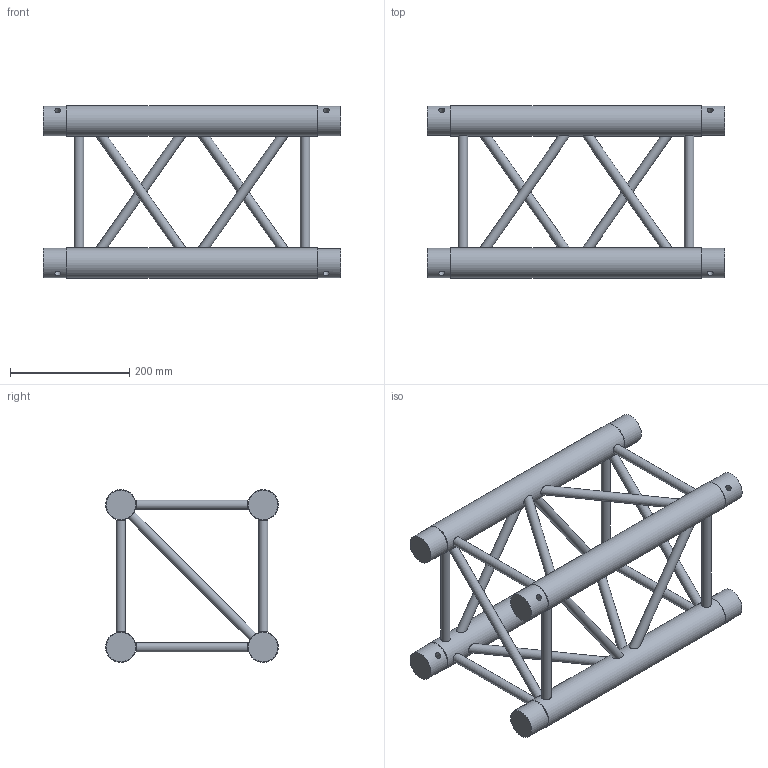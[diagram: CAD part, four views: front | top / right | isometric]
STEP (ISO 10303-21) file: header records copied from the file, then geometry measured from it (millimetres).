
FILE_DESCRIPTION(/* description */ (''),/* implementation_level */ '2;1');
FILE_NAME(/* name */ 'M:\Symbolen\STP\30-er truss\111080118.stp',/* time_stamp */ '2015-01-29T10:38:55+01:00',/* author */ ('Stephan'),/* organization */ (''),/* preprocessor_version */ 'ST-DEVELOPER v15.6',/* originating_system */ 'Autodesk Inventor 2015',/* authorisation */ '');
FILE_SCHEMA (('AUTOMOTIVE_DESIGN { 1 0 10303 214 3 1 1 }'));
Length unit declared in the file: millimetre
Products named in the file (1): 160023620
Bounding box: 500 x 289.98 x 289.98 mm (x, y, z)
Volume: 4133887.1 mm3; surface area: 574980.6 mm2
Topology: 14 solids, 22 shells, 128 faces, 244 edges, 156 vertices
Faces by surface type: plane 72, cylinder 48, cone 8
Full cylindrical faces by diameter (mm): 10 x8, 12 x2, 16 x18, 49.5 x8, 51 x4
Entity records: 3709 total; most frequent: CARTESIAN_POINT 1081, DIRECTION 466, ORIENTED_EDGE 384, AXIS2_PLACEMENT_3D 217, EDGE_LOOP 216, EDGE_CURVE 176, VERTEX_POINT 144, STYLED_ITEM 129
